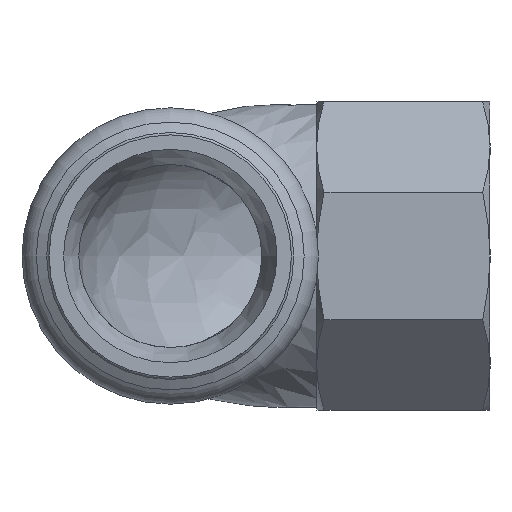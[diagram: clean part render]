
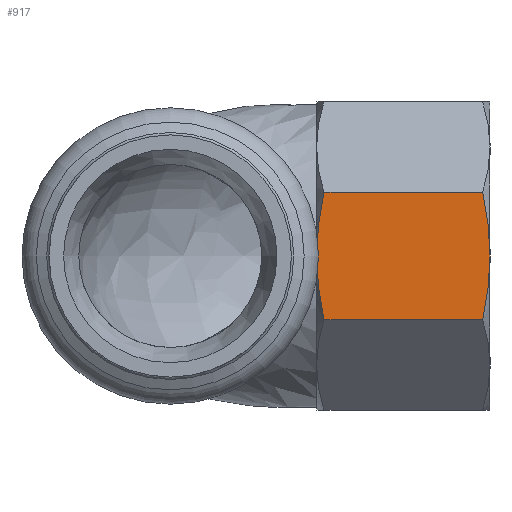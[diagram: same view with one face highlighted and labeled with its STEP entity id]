
A CAD part, left-side view. The second image highlights one B-rep face of the part: STEP entity #917.
In plain terms, the highlighted planar face has unit normal (-1, 0, 0).
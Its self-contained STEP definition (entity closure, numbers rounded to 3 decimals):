
#189=CARTESIAN_POINT('',(0.,-20.,0.));
#190=VERTEX_POINT('',#189);
#380=CARTESIAN_POINT('',(0.,-2.761,6.627));
#381=VERTEX_POINT('',#380);
#395=CARTESIAN_POINT('',(0.,-2.,0.));
#396=VERTEX_POINT('',#395);
#404=CARTESIAN_POINT('',(0.,-2.761,6.627));
#405=CARTESIAN_POINT('',(0.,-2.,3.183));
#406=CARTESIAN_POINT('',(0.,-2.,0.));
#414=(BOUNDED_CURVE()B_SPLINE_CURVE(2,(#404,#405,#406),.UNSPECIFIED.,.F.,.U.)B_SPLINE_CURVE_WITH_KNOTS((3,3),(0.99,1.755),.UNSPECIFIED.)CURVE()GEOMETRIC_REPRESENTATION_ITEM()RATIONAL_B_SPLINE_CURVE((1.053,1.047,1.0))REPRESENTATION_ITEM(''));
#415=EDGE_CURVE('',#381,#396,#414,.T.);
#425=CARTESIAN_POINT('',(0.,-2.761,-6.627));
#426=VERTEX_POINT('',#425);
#427=CARTESIAN_POINT('',(0.,-2.,0.));
#428=CARTESIAN_POINT('',(0.,-2.,-3.183));
#429=CARTESIAN_POINT('',(0.,-2.761,-6.627));
#437=(BOUNDED_CURVE()B_SPLINE_CURVE(2,(#427,#428,#429),.UNSPECIFIED.,.F.,.U.)B_SPLINE_CURVE_WITH_KNOTS((3,3),(1.755,2.521),.UNSPECIFIED.)CURVE()GEOMETRIC_REPRESENTATION_ITEM()RATIONAL_B_SPLINE_CURVE((1.0,1.047,1.053))REPRESENTATION_ITEM(''));
#438=EDGE_CURVE('',#396,#426,#437,.T.);
#714=CARTESIAN_POINT('',(0.,-19.239,-6.627));
#715=VERTEX_POINT('',#714);
#716=CARTESIAN_POINT('',(0.,-19.239,-6.627));
#717=CARTESIAN_POINT('',(0.,-20.,-3.183));
#718=CARTESIAN_POINT('',(0.,-20.,0.));
#726=(BOUNDED_CURVE()B_SPLINE_CURVE(2,(#716,#717,#718),.UNSPECIFIED.,.F.,.U.)B_SPLINE_CURVE_WITH_KNOTS((3,3),(1.104,1.882),.UNSPECIFIED.)CURVE()GEOMETRIC_REPRESENTATION_ITEM()RATIONAL_B_SPLINE_CURVE((1.058,1.05,1.0))REPRESENTATION_ITEM(''));
#727=EDGE_CURVE('',#715,#190,#726,.T.);
#751=CARTESIAN_POINT('',(0.,-19.239,6.627));
#752=VERTEX_POINT('',#751);
#753=CARTESIAN_POINT('',(0.,-20.,0.));
#754=CARTESIAN_POINT('',(0.,-20.,3.183));
#755=CARTESIAN_POINT('',(0.,-19.239,6.627));
#763=(BOUNDED_CURVE()B_SPLINE_CURVE(2,(#753,#754,#755),.UNSPECIFIED.,.F.,.U.)B_SPLINE_CURVE_WITH_KNOTS((3,3),(1.882,2.66),.UNSPECIFIED.)CURVE()GEOMETRIC_REPRESENTATION_ITEM()RATIONAL_B_SPLINE_CURVE((1.0,1.05,1.058))REPRESENTATION_ITEM(''));
#764=EDGE_CURVE('',#190,#752,#763,.T.);
#894=CARTESIAN_POINT('',(0.,-20.,6.627));
#895=DIRECTION('',(-1.0,0.0,0.0));
#896=DIRECTION('',(0.0,0.0,1.0));
#897=AXIS2_PLACEMENT_3D('',#894,#895,#896);
#898=PLANE('',#897);
#899=ORIENTED_EDGE('',*,*,#415,.T.);
#900=ORIENTED_EDGE('',*,*,#438,.T.);
#901=CARTESIAN_POINT('',(0.,-19.239,-6.627));
#902=DIRECTION('',(0.0,1.0,0.0));
#903=VECTOR('',#902,16.478);
#904=LINE('',#901,#903);
#905=EDGE_CURVE('',#715,#426,#904,.T.);
#906=ORIENTED_EDGE('',*,*,#905,.F.);
#907=ORIENTED_EDGE('',*,*,#727,.T.);
#908=ORIENTED_EDGE('',*,*,#764,.T.);
#909=CARTESIAN_POINT('',(0.,-19.239,6.627));
#910=DIRECTION('',(0.0,1.0,0.0));
#911=VECTOR('',#910,16.478);
#912=LINE('',#909,#911);
#913=EDGE_CURVE('',#752,#381,#912,.T.);
#914=ORIENTED_EDGE('',*,*,#913,.T.);
#915=EDGE_LOOP('',(#899,#900,#906,#907,#908,#914));
#916=FACE_OUTER_BOUND('',#915,.T.);
#917=ADVANCED_FACE('',(#916),#898,.T.);
